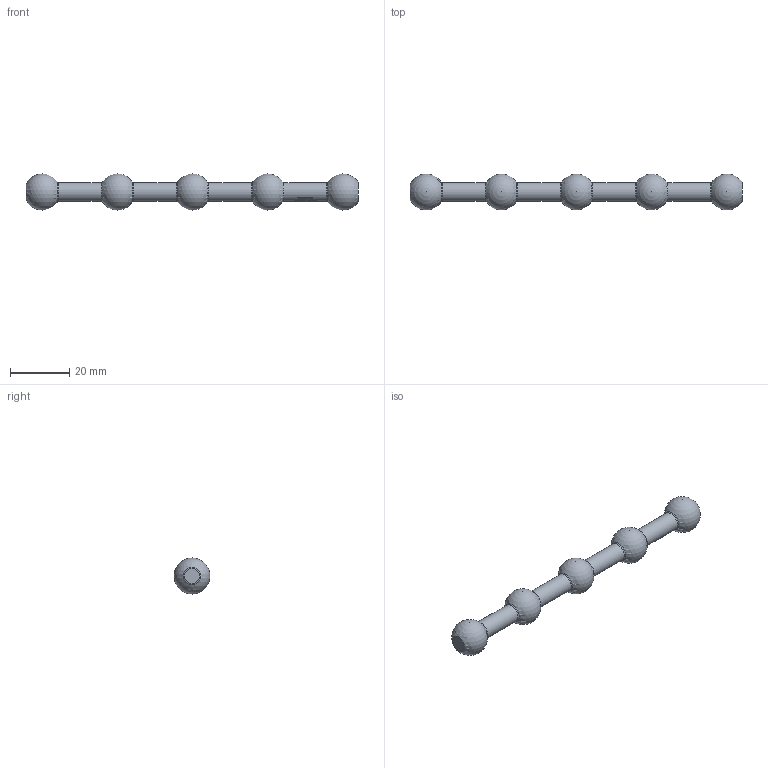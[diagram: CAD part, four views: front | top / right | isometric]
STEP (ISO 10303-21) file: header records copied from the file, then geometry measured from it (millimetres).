
FILE_DESCRIPTION(/* description */ ('JRPL 4IN HYPERLINK'),/* implementation_level */ '2;1');
FILE_NAME(/* name */ 'C:\Users\Shayne Riley\Documents\Vault\AD&D\Design Files\Pop-Link\JRPL Series Assemblies\JRPL-HLINK4IN.stp',/* time_stamp */ '2020-11-18T09:17:36-05:00',/* author */ ('Shayne Riley'),/* organization */ (''),/* preprocessor_version */ 'ST-DEVELOPER v18.1',/* originating_system */ 'Autodesk Inventor 2021',/* authorisation */ '');
FILE_SCHEMA (('AUTOMOTIVE_DESIGN { 1 0 10303 214 3 1 1 }'));
Length unit declared in the file: inch
Products named in the file (4): JRPL-HLINK4IN; 60267; 60266-JRPL-HYPERLINK POST; 60266-JRPL-HYPERLINK POST-ETCHED
Assembly tree (5 placements, depth 2):
  JRPL-HLINK4IN
    60267
    60266-JRPL-HYPERLINK POST  x3
    60266-JRPL-HYPERLINK POST-ETCHED
Bounding box: 112.09 x 12.1 x 12.19 mm (x, y, z)
Volume: 6179.4 mm3; surface area: 4380.8 mm2
Topology: 5 solids, 5 shells, 764 faces, 2043 edges, 1359 vertices
Faces by surface type: plane 471, bspline 169, cylinder 84, torus 21, cone 14, sphere 5
Full cylindrical faces by diameter (mm): 4.724 x4, 4.762 x5, 4.788 x4, 6.306 x4
Entity records: 26277 total; most frequent: CARTESIAN_POINT 8413, ORIENTED_EDGE 3908, DIRECTION 3281, EDGE_CURVE 1954, VERTEX_POINT 1307, AXIS2_PLACEMENT_3D 1095, LINE 1091, VECTOR 1091
